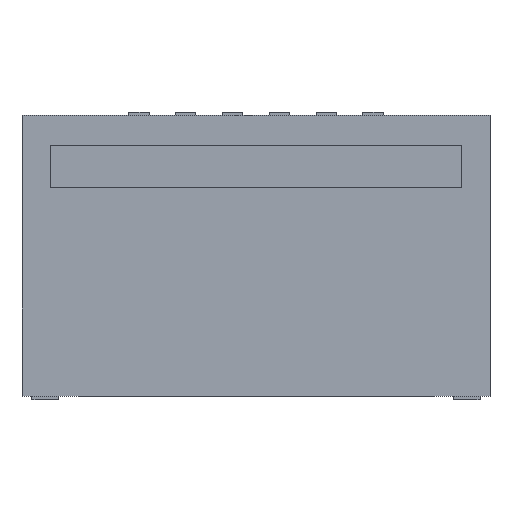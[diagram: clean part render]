
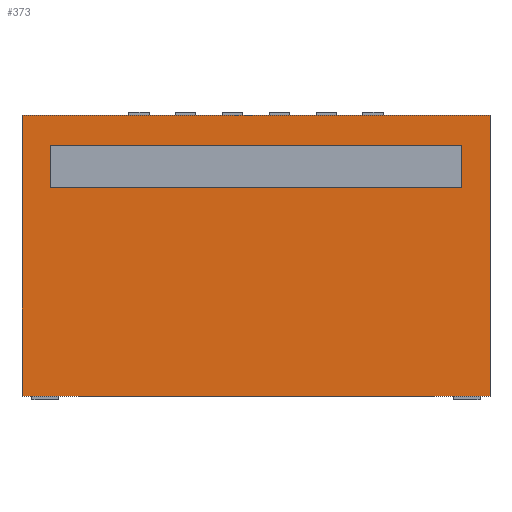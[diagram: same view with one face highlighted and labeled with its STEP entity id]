
A CAD part, top view. The second image highlights one B-rep face of the part: STEP entity #373.
In plain terms, the highlighted planar face has unit normal (0, 0, 1).
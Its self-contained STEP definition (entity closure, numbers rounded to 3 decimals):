
#78 = VERTEX_POINT('',#79);
#79 = CARTESIAN_POINT('',(-2.5,-1.5,1.));
#86 = PLANE('',#87);
#87 = AXIS2_PLACEMENT_3D('',#88,#89,#90);
#88 = CARTESIAN_POINT('',(-2.5,-1.5,0.1));
#89 = DIRECTION('',(1.,0.,0.));
#90 = DIRECTION('',(0.,0.,1.));
#98 = PLANE('',#99);
#99 = AXIS2_PLACEMENT_3D('',#100,#101,#102);
#100 = CARTESIAN_POINT('',(-2.5,-1.5,0.1));
#101 = DIRECTION('',(0.,1.,0.));
#102 = DIRECTION('',(0.,0.,1.));
#139 = VERTEX_POINT('',#140);
#140 = CARTESIAN_POINT('',(-2.5,1.5,1.));
#154 = PLANE('',#155);
#155 = AXIS2_PLACEMENT_3D('',#156,#157,#158);
#156 = CARTESIAN_POINT('',(-2.5,1.5,0.1));
#157 = DIRECTION('',(0.,1.,0.));
#158 = DIRECTION('',(0.,0.,1.));
#166 = EDGE_CURVE('',#78,#139,#167,.T.);
#167 = SURFACE_CURVE('',#168,(#172,#179),.PCURVE_S1.);
#168 = LINE('',#169,#170);
#169 = CARTESIAN_POINT('',(-2.5,-1.5,1.));
#170 = VECTOR('',#171,1.);
#171 = DIRECTION('',(0.,1.,0.));
#172 = PCURVE('',#86,#173);
#173 = DEFINITIONAL_REPRESENTATION('',(#174),#178);
#174 = LINE('',#175,#176);
#175 = CARTESIAN_POINT('',(0.9,0.));
#176 = VECTOR('',#177,1.);
#177 = DIRECTION('',(0.,-1.));
#178 = ( GEOMETRIC_REPRESENTATION_CONTEXT(2) 
PARAMETRIC_REPRESENTATION_CONTEXT() REPRESENTATION_CONTEXT('2D SPACE',''
  ) );
#179 = PCURVE('',#180,#185);
#180 = PLANE('',#181);
#181 = AXIS2_PLACEMENT_3D('',#182,#183,#184);
#182 = CARTESIAN_POINT('',(-2.5,-1.5,1.));
#183 = DIRECTION('',(0.,0.,1.));
#184 = DIRECTION('',(1.,0.,0.));
#185 = DEFINITIONAL_REPRESENTATION('',(#186),#190);
#186 = LINE('',#187,#188);
#187 = CARTESIAN_POINT('',(0.,0.));
#188 = VECTOR('',#189,1.);
#189 = DIRECTION('',(0.,1.));
#190 = ( GEOMETRIC_REPRESENTATION_CONTEXT(2) 
PARAMETRIC_REPRESENTATION_CONTEXT() REPRESENTATION_CONTEXT('2D SPACE',''
  ) );
#219 = EDGE_CURVE('',#78,#220,#222,.T.);
#220 = VERTEX_POINT('',#221);
#221 = CARTESIAN_POINT('',(2.5,-1.5,1.));
#222 = SURFACE_CURVE('',#223,(#227,#234),.PCURVE_S1.);
#223 = LINE('',#224,#225);
#224 = CARTESIAN_POINT('',(-2.5,-1.5,1.));
#225 = VECTOR('',#226,1.);
#226 = DIRECTION('',(1.,0.,0.));
#227 = PCURVE('',#98,#228);
#228 = DEFINITIONAL_REPRESENTATION('',(#229),#233);
#229 = LINE('',#230,#231);
#230 = CARTESIAN_POINT('',(0.9,0.));
#231 = VECTOR('',#232,1.);
#232 = DIRECTION('',(0.,1.));
#233 = ( GEOMETRIC_REPRESENTATION_CONTEXT(2) 
PARAMETRIC_REPRESENTATION_CONTEXT() REPRESENTATION_CONTEXT('2D SPACE',''
  ) );
#234 = PCURVE('',#180,#235);
#235 = DEFINITIONAL_REPRESENTATION('',(#236),#240);
#236 = LINE('',#237,#238);
#237 = CARTESIAN_POINT('',(0.,0.));
#238 = VECTOR('',#239,1.);
#239 = DIRECTION('',(1.,0.));
#240 = ( GEOMETRIC_REPRESENTATION_CONTEXT(2) 
PARAMETRIC_REPRESENTATION_CONTEXT() REPRESENTATION_CONTEXT('2D SPACE',''
  ) );
#256 = PLANE('',#257);
#257 = AXIS2_PLACEMENT_3D('',#258,#259,#260);
#258 = CARTESIAN_POINT('',(2.5,-1.5,0.1));
#259 = DIRECTION('',(1.,0.,0.));
#260 = DIRECTION('',(0.,0.,1.));
#373 = ADVANCED_FACE('',(#374),#180,.T.);
#374 = FACE_BOUND('',#375,.T.);
#375 = EDGE_LOOP('',(#376,#377,#378,#401));
#376 = ORIENTED_EDGE('',*,*,#166,.F.);
#377 = ORIENTED_EDGE('',*,*,#219,.T.);
#378 = ORIENTED_EDGE('',*,*,#379,.T.);
#379 = EDGE_CURVE('',#220,#380,#382,.T.);
#380 = VERTEX_POINT('',#381);
#381 = CARTESIAN_POINT('',(2.5,1.5,1.));
#382 = SURFACE_CURVE('',#383,(#387,#394),.PCURVE_S1.);
#383 = LINE('',#384,#385);
#384 = CARTESIAN_POINT('',(2.5,-1.5,1.));
#385 = VECTOR('',#386,1.);
#386 = DIRECTION('',(0.,1.,0.));
#387 = PCURVE('',#180,#388);
#388 = DEFINITIONAL_REPRESENTATION('',(#389),#393);
#389 = LINE('',#390,#391);
#390 = CARTESIAN_POINT('',(5.,0.));
#391 = VECTOR('',#392,1.);
#392 = DIRECTION('',(0.,1.));
#393 = ( GEOMETRIC_REPRESENTATION_CONTEXT(2) 
PARAMETRIC_REPRESENTATION_CONTEXT() REPRESENTATION_CONTEXT('2D SPACE',''
  ) );
#394 = PCURVE('',#256,#395);
#395 = DEFINITIONAL_REPRESENTATION('',(#396),#400);
#396 = LINE('',#397,#398);
#397 = CARTESIAN_POINT('',(0.9,0.));
#398 = VECTOR('',#399,1.);
#399 = DIRECTION('',(0.,-1.));
#400 = ( GEOMETRIC_REPRESENTATION_CONTEXT(2) 
PARAMETRIC_REPRESENTATION_CONTEXT() REPRESENTATION_CONTEXT('2D SPACE',''
  ) );
#401 = ORIENTED_EDGE('',*,*,#402,.F.);
#402 = EDGE_CURVE('',#139,#380,#403,.T.);
#403 = SURFACE_CURVE('',#404,(#408,#415),.PCURVE_S1.);
#404 = LINE('',#405,#406);
#405 = CARTESIAN_POINT('',(-2.5,1.5,1.));
#406 = VECTOR('',#407,1.);
#407 = DIRECTION('',(1.,0.,0.));
#408 = PCURVE('',#180,#409);
#409 = DEFINITIONAL_REPRESENTATION('',(#410),#414);
#410 = LINE('',#411,#412);
#411 = CARTESIAN_POINT('',(0.,3.));
#412 = VECTOR('',#413,1.);
#413 = DIRECTION('',(1.,0.));
#414 = ( GEOMETRIC_REPRESENTATION_CONTEXT(2) 
PARAMETRIC_REPRESENTATION_CONTEXT() REPRESENTATION_CONTEXT('2D SPACE',''
  ) );
#415 = PCURVE('',#154,#416);
#416 = DEFINITIONAL_REPRESENTATION('',(#417),#421);
#417 = LINE('',#418,#419);
#418 = CARTESIAN_POINT('',(0.9,0.));
#419 = VECTOR('',#420,1.);
#420 = DIRECTION('',(0.,1.));
#421 = ( GEOMETRIC_REPRESENTATION_CONTEXT(2) 
PARAMETRIC_REPRESENTATION_CONTEXT() REPRESENTATION_CONTEXT('2D SPACE',''
  ) );
